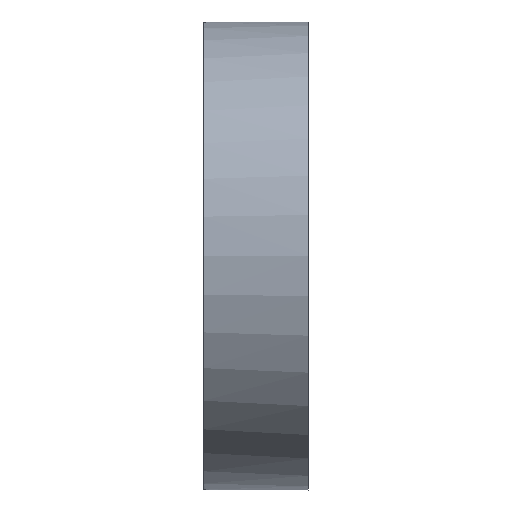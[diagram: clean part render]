
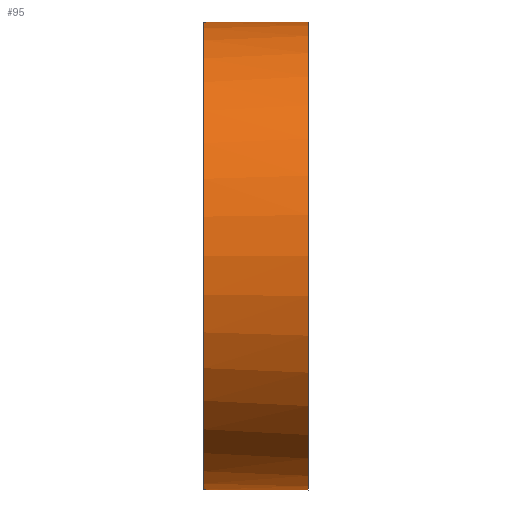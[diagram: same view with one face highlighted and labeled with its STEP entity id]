
A CAD part, top view. The second image highlights one B-rep face of the part: STEP entity #95.
In plain terms, the highlighted cylindrical face has radius 17 mm (diameter 34 mm), a full revolution.
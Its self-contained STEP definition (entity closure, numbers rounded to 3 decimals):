
#95 = ADVANCED_FACE( '', ( #183, #184 ), #185, .T. );
#183 = FACE_OUTER_BOUND( '', #297, .T. );
#184 = FACE_OUTER_BOUND( '', #298, .T. );
#185 = CYLINDRICAL_SURFACE( '', #299, 17. );
#297 = EDGE_LOOP( '', ( #405, #406, #407, #408 ) );
#298 = EDGE_LOOP( '', ( #409 ) );
#299 = AXIS2_PLACEMENT_3D( '', #410, #411, #412 );
#405 = ORIENTED_EDGE( '', *, *, #560, .F. );
#406 = ORIENTED_EDGE( '', *, *, #561, .T. );
#407 = ORIENTED_EDGE( '', *, *, #562, .F. );
#408 = ORIENTED_EDGE( '', *, *, #563, .T. );
#409 = ORIENTED_EDGE( '', *, *, #564, .T. );
#410 = CARTESIAN_POINT( '', ( -60., 0., 0. ) );
#411 = DIRECTION( '', ( 1., 0., 0. ) );
#412 = DIRECTION( '', ( 0., 0., 1. ) );
#560 = EDGE_CURVE( '', #624, #625, #626, .T. );
#561 = EDGE_CURVE( '', #624, #627, #628, .T. );
#562 = EDGE_CURVE( '', #629, #627, #630, .T. );
#563 = EDGE_CURVE( '', #629, #625, #631, .T. );
#564 = EDGE_CURVE( '', #632, #632, #633, .T. );
#624 = VERTEX_POINT( '', #715 );
#625 = VERTEX_POINT( '', #716 );
#626 = CIRCLE( '', #717, 17. );
#627 = VERTEX_POINT( '', #718 );
#628 = B_SPLINE_CURVE_WITH_KNOTS( '', 3, ( #719, #720, #721, #722, #723, #724, #725, #726, #727, #728, #729, #730, #731, #732 ), .UNSPECIFIED., .F., .F., ( 4, 2, 2, 2, 2, 2, 4 ), ( 0., 0., 0.001, 0.001, 0.002, 0.002, 0.003 ), .UNSPECIFIED. );
#629 = VERTEX_POINT( '', #733 );
#630 = CIRCLE( '', #734, 17. );
#631 = B_SPLINE_CURVE_WITH_KNOTS( '', 3, ( #735, #736, #737, #738, #739, #740, #741, #742, #743, #744, #745, #746, #747, #748 ), .UNSPECIFIED., .F., .F., ( 4, 2, 2, 2, 2, 2, 4 ), ( 0., 0., 0.001, 0.001, 0.002, 0.002, 0.003 ), .UNSPECIFIED. );
#632 = VERTEX_POINT( '', #749 );
#633 = CIRCLE( '', #750, 17. );
#715 = CARTESIAN_POINT( '', ( -7.6, -16.963, 1.118 ) );
#716 = CARTESIAN_POINT( '', ( -7.6, 16.963, 1.118 ) );
#717 = AXIS2_PLACEMENT_3D( '', #863, #864, #865 );
#718 = CARTESIAN_POINT( '', ( -7.6, -16.963, -1.118 ) );
#719 = CARTESIAN_POINT( '', ( -7.6, -16.963, 1.118 ) );
#720 = CARTESIAN_POINT( '', ( -7.521, -16.968, 1.047 ) );
#721 = CARTESIAN_POINT( '', ( -7.451, -16.973, 0.97 ) );
#722 = CARTESIAN_POINT( '', ( -7.327, -16.981, 0.801 ) );
#723 = CARTESIAN_POINT( '', ( -7.273, -16.986, 0.708 ) );
#724 = CARTESIAN_POINT( '', ( -7.145, -16.996, 0.42 ) );
#725 = CARTESIAN_POINT( '', ( -7.1, -17., 0.209 ) );
#726 = CARTESIAN_POINT( '', ( -7.1, -17., -0.209 ) );
#727 = CARTESIAN_POINT( '', ( -7.145, -16.996, -0.42 ) );
#728 = CARTESIAN_POINT( '', ( -7.273, -16.986, -0.708 ) );
#729 = CARTESIAN_POINT( '', ( -7.327, -16.981, -0.8 ) );
#730 = CARTESIAN_POINT( '', ( -7.451, -16.973, -0.97 ) );
#731 = CARTESIAN_POINT( '', ( -7.521, -16.968, -1.047 ) );
#732 = CARTESIAN_POINT( '', ( -7.6, -16.963, -1.118 ) );
#733 = CARTESIAN_POINT( '', ( -7.6, 16.963, -1.118 ) );
#734 = AXIS2_PLACEMENT_3D( '', #866, #867, #868 );
#735 = CARTESIAN_POINT( '', ( -7.6, 16.963, -1.118 ) );
#736 = CARTESIAN_POINT( '', ( -7.521, 16.968, -1.047 ) );
#737 = CARTESIAN_POINT( '', ( -7.451, 16.973, -0.97 ) );
#738 = CARTESIAN_POINT( '', ( -7.327, 16.981, -0.801 ) );
#739 = CARTESIAN_POINT( '', ( -7.273, 16.986, -0.708 ) );
#740 = CARTESIAN_POINT( '', ( -7.145, 16.996, -0.42 ) );
#741 = CARTESIAN_POINT( '', ( -7.1, 17., -0.209 ) );
#742 = CARTESIAN_POINT( '', ( -7.1, 17., 0.209 ) );
#743 = CARTESIAN_POINT( '', ( -7.145, 16.996, 0.42 ) );
#744 = CARTESIAN_POINT( '', ( -7.273, 16.986, 0.708 ) );
#745 = CARTESIAN_POINT( '', ( -7.327, 16.981, 0.8 ) );
#746 = CARTESIAN_POINT( '', ( -7.451, 16.973, 0.97 ) );
#747 = CARTESIAN_POINT( '', ( -7.521, 16.968, 1.047 ) );
#748 = CARTESIAN_POINT( '', ( -7.6, 16.963, 1.118 ) );
#749 = CARTESIAN_POINT( '', ( 0., 0., 17. ) );
#750 = AXIS2_PLACEMENT_3D( '', #869, #870, #871 );
#863 = CARTESIAN_POINT( '', ( -7.6, 0., 0. ) );
#864 = DIRECTION( '', ( -1., 0., 0. ) );
#865 = DIRECTION( '', ( 0., 0., 1. ) );
#866 = CARTESIAN_POINT( '', ( -7.6, 0., 0. ) );
#867 = DIRECTION( '', ( -1., 0., 0. ) );
#868 = DIRECTION( '', ( 0., 0., 1. ) );
#869 = CARTESIAN_POINT( '', ( 0., 0., 0. ) );
#870 = DIRECTION( '', ( -1., 0., 0. ) );
#871 = DIRECTION( '', ( 0., 0., 1. ) );
